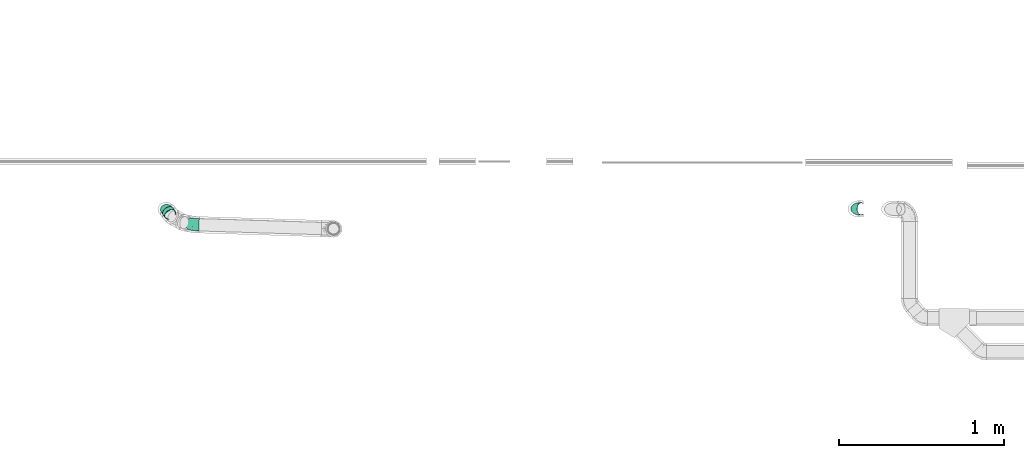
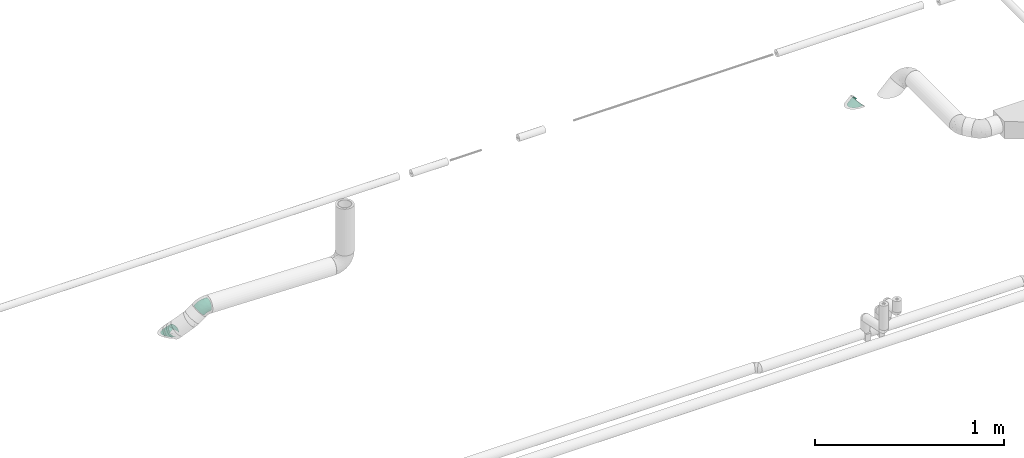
# One storey, part 140 of 156: 2 flow fittings, 2 flow segments.
"""IFC2X3 building model written with IfcOpenShell, lengths in millimetres."""

from ifc_helpers import new_model, entity, si_unit, converted_unit, derived_unit, direction, frame, origin_with_axes, place, context, subcontext, project, spatial, open_shell, faceted_brep, surface_model, source, transform, mapped, type_object, element, save


model = new_model("IFC2X3")

# Units and contexts
model_context = context("Model", 3, precision=0.01, world=frame((0.0, 4.29681676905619e-09, 0.0)), true_north=direction((4.01073788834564e-13, 1.0)))
plan_context = context("Plan", 3, precision=0.01, world=frame((0.0, 4.29681676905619e-09, 0.0)), true_north=direction((4.01073788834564e-13, 1.0)))
body_context = subcontext(model_context, "Body", "Model", "MODEL_VIEW")
ifc_project = project(units=[converted_unit("PLANEANGLEUNIT", "DEGREE", entity("IfcPositiveLengthMeasure", 0.0174532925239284), si_unit("PLANEANGLEUNIT", "RADIAN"), dimensions=[0, 0, 0, 0, 0, 0, 0]), si_unit("AREAUNIT", "SQUARE_METRE"), si_unit("LENGTHUNIT", "METRE", prefix="MILLI"), si_unit("MASSUNIT", "GRAM", prefix="KILO"), si_unit("POWERUNIT", "WATT"), si_unit("PRESSUREUNIT", "PASCAL", prefix="KILO"), si_unit("FORCEUNIT", "NEWTON", prefix="KILO"), si_unit("ELECTRICVOLTAGEUNIT", "VOLT"), si_unit("ELECTRICCURRENTUNIT", "AMPERE"), si_unit("THERMODYNAMICTEMPERATUREUNIT", "DEGREE_CELSIUS"), si_unit("TIMEUNIT", "SECOND"), si_unit("VOLUMEUNIT", "CUBIC_METRE"), derived_unit("LINEARVELOCITYUNIT", [(si_unit("LENGTHUNIT", "METRE"), 1), (si_unit("TIMEUNIT", "SECOND"), -1)]), derived_unit("VOLUMETRICFLOWRATEUNIT", [(si_unit("VOLUMEUNIT", "CUBIC_METRE"), 1), (si_unit("TIMEUNIT", "SECOND"), -1)]), derived_unit("THERMALTRANSMITTANCEUNIT", [(si_unit("POWERUNIT", "WATT"), 1), (si_unit("THERMODYNAMICTEMPERATUREUNIT", "KELVIN"), -1), (si_unit("AREAUNIT", "SQUARE_METRE"), -1)]), derived_unit("SOUNDPRESSUREUNIT", [(si_unit("PRESSUREUNIT", "PASCAL"), 1)])], contexts=[model_context, plan_context])

# Site, building, storey
site_placement = place(None, frame((0.0, -4.29681676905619e-09, 0.0), z_axis=(0.0, 0.0, 1.0), x_axis=(1.0, 0.0, 0.0)))
site = spatial("IfcSite", under=ifc_project, at=site_placement, CompositionType="ELEMENT")
building_placement = place(site_placement, frame((0.0, 4.29681676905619e-09, 0.0), z_axis=(0.0, 0.0, 1.0), x_axis=(1.0, 0.0, 0.0)))
building = spatial("IfcBuilding", under=site, at=building_placement, Name="mc-building", CompositionType="ELEMENT")
storey_placement = place(building_placement, frame((0.0, 0.0, 205200.0), z_axis=(0.0, 0.0, 1.0), x_axis=(1.0, 0.0, 0.0)))
storey = spatial("IfcBuildingStorey", under=building, at=storey_placement, Name="Nivå D + 1,2 m", CompositionType="ELEMENT", Elevation=205200.0)

# Flow fittings
pipe_fitting_type = type_object("IfcPipeFittingType", Name="magi_pipe_elbow_short_001", PredefinedType="BEND")
shared_shape = source(origin_with_axes(), body_context, "Body", "SurfaceModel", [
    surface_model("IfcShellBasedSurfaceModel", [(-31.24245, 18.75, -32.47595), (-31.24245, 9.70571, -36.22222), (-31.24245, 0.0, -37.5), (-31.24245, 26.5165, -26.5165), (-31.24245, 36.22222, -9.70571), (-31.24245, 32.47595, -18.75), (-31.24245, -26.5165, -26.5165), (-31.24245, -32.47595, -18.75), (-31.24245, -18.75, -32.47595), (-31.24245, -9.70571, -36.22222), (-31.24245, -36.22222, -9.70571), (-31.24245, -37.5, 0.0), (-31.24245, -36.22222, 9.70571), (-31.24245, 36.22222, 9.70571), (-31.24245, 37.5, 0.0), (-31.24245, 26.5165, 26.5165), (-31.24245, 32.47595, 18.75), (-31.24245, 9.70571, 36.22222), (-31.24245, 18.75, 32.47595), (-31.24245, 0.0, 37.5), (-31.24245, -32.47595, 18.75), (-31.24245, -26.5165, 26.5165), (-31.24245, -18.75, 32.47595), (-31.24245, -9.70571, 36.22222), (22.00293, 22.18021, -37.5), (15.11247, 29.0156, -36.22222), (8.69158, 35.38516, -32.47595), (40.82801, 3.5056, -26.5165), (3.17784, 40.85483, -26.5165), (-3.71262, 47.69021, 9.70571), (-1.053, 45.05185, -18.75), (-4.61976, 48.59011, 0.0), (28.89339, 15.34483, -36.22222), (35.31427, 8.97527, -32.47595), (45.05885, -0.69142, -18.75), (48.62562, -4.22968, 0.0), (47.71847, -3.32978, -9.70571), (47.71847, -3.32978, 9.70571), (-3.71262, 47.69021, -9.70571), (3.17784, 40.85483, 26.5165), (-1.053, 45.05185, 18.75), (8.69158, 35.38516, 32.47595), (15.11247, 29.0156, 36.22222), (45.05885, -0.69142, 18.75), (22.00293, 22.18021, 37.5), (40.82801, 3.5056, 26.5165), (28.89339, 15.34483, 36.22222), (35.31427, 8.97527, 32.47595), (9.57645, -22.98904, 20.87738), (-8.40224, -21.18584, 28.92972), (-12.27126, -28.68147, 21.95265), (-12.70808, -35.04729, 0.0), (-1.97999, -33.62761, 0.0), (-8.11084, -34.53562, 6.39074), (29.00428, -11.48748, 21.95265), (-14.93472, -13.74236, 34.26877), (3.85038, -9.24314, 33.79139), (1.05134, 22.60066, 35.00552), (6.81414, 17.845, 36.96118), (-11.31805, -3.60702, 37.00172), (-3.60313, 8.6496, 37.36973), (-18.88401, 5.20171, 37.27342), (-10.72486, 25.74588, 30.62382), (-16.70558, 31.44811, 23.66959), (20.27421, 0.92448, 34.26877), (-14.55633, 15.60561, 35.05986), (25.26797, -22.27704, 0.0), (8.33761, -29.2872, 8.40688), (11.64399, -27.95233, 0.0), (-15.54727, 37.32247, 15.41736), (30.23033, -18.56399, 6.39074), (33.83126, -15.66059, 0.0), (-15.07295, 40.23831, 7.88495), (10.53165, 5.49482, 37.00172), (20.95803, -8.95534, 28.92972), (-6.81571, -32.42832, 13.01137), (6.37956, -27.6732, 15.04648), (27.82217, -17.99935, 13.01137), (-16.82234, 40.38338, 0.0), (6.31957, -15.17063, 29.86312), (-11.31805, -3.60702, -37.00172), (-8.11084, -34.53562, -6.39074), (11.67643, -28.0302, -8.11214), (10.53165, 5.49482, -37.00172), (-16.7855, 15.17044, -35.00552), (-17.4678, 7.72997, -36.96118), (-10.56109, 34.0077, -23.66959), (20.95803, -8.95534, -28.92972), (-15.54727, 37.32247, -15.41736), (27.82217, -17.99935, -13.01137), (-17.95138, 39.03925, -7.88495), (-0.82752, 21.32456, -35.05986), (-6.81571, -32.42832, -13.01137), (-10.72486, 25.74588, -30.62382), (-12.27126, -28.68147, -21.95265), (-8.40224, -21.18584, -28.92972), (6.31957, -15.17063, -29.86312), (9.57645, -22.98904, -20.87738), (-14.93472, -13.74236, -34.26877), (20.27421, 0.92448, -34.26877), (3.85038, -9.24314, -33.79139), (30.23033, -18.56399, -6.39074), (9.60643, 17.06986, -37.27342), (7.07488, -27.55291, -14.74971), (29.00428, -11.48748, -21.95265), (-3.60313, 8.6496, -37.36973)], [open_shell([[[0, 1, 2]], [[3, 0, 2]], [[4, 5, 3]], [[6, 3, 2]], [[4, 3, 7]], [[8, 6, 9]], [[6, 2, 9]], [[10, 11, 7]], [[3, 6, 7]], [[7, 11, 12]], [[12, 4, 7]], [[13, 14, 15]], [[16, 13, 15]], [[17, 18, 15]], [[14, 17, 15]], [[19, 17, 14]], [[20, 21, 12]], [[22, 12, 21]], [[23, 19, 22]], [[12, 22, 19]], [[19, 14, 12]], [[4, 12, 14]], [[24, 25, 26]], [[27, 24, 26]], [[26, 28, 29]], [[26, 29, 27]], [[30, 31, 28]], [[32, 27, 33]], [[32, 24, 27]], [[34, 35, 36]], [[37, 35, 34]], [[34, 27, 37]], [[31, 30, 38]], [[27, 29, 39]], [[39, 29, 40]], [[39, 41, 42]], [[39, 37, 27]], [[42, 37, 39]], [[43, 44, 45]], [[44, 43, 37]], [[45, 46, 47]], [[46, 45, 44]], [[37, 42, 44]], [[29, 28, 31]], [[48, 49, 50]], [[51, 52, 53]], [[22, 21, 49]], [[43, 45, 54]], [[55, 49, 56]], [[50, 49, 21]], [[42, 57, 58]], [[23, 22, 55]], [[59, 60, 61]], [[19, 23, 59]], [[15, 62, 63]], [[47, 46, 64]], [[61, 17, 19]], [[18, 65, 62]], [[12, 51, 53]], [[41, 39, 62]], [[66, 67, 68]], [[62, 15, 18]], [[21, 20, 50]], [[16, 63, 69]], [[13, 16, 69]], [[37, 70, 71]], [[72, 14, 13]], [[66, 70, 67]], [[67, 53, 52]], [[18, 17, 65]], [[44, 58, 73]], [[45, 47, 74]], [[40, 29, 69]], [[73, 46, 44]], [[50, 75, 76]], [[45, 74, 54]], [[60, 58, 57]], [[74, 47, 64]], [[20, 75, 50]], [[70, 37, 77]], [[48, 54, 74]], [[61, 65, 17]], [[54, 48, 77]], [[13, 69, 72]], [[20, 12, 75]], [[78, 72, 31]], [[49, 79, 56]], [[29, 72, 69]], [[56, 73, 59]], [[40, 69, 63]], [[56, 64, 73]], [[40, 63, 39]], [[60, 59, 73]], [[42, 41, 57]], [[57, 62, 65]], [[55, 59, 23]], [[16, 15, 63]], [[77, 37, 43]], [[77, 43, 54]], [[79, 48, 74]], [[39, 63, 62]], [[62, 57, 41]], [[60, 57, 65]], [[49, 55, 22]], [[59, 55, 56]], [[73, 64, 46]], [[74, 64, 56]], [[12, 11, 51]], [[67, 75, 53]], [[12, 53, 75]], [[52, 68, 67]], [[76, 75, 67]], [[76, 77, 48]], [[71, 70, 66]], [[71, 35, 37]], [[67, 70, 77]], [[73, 58, 60]], [[44, 42, 58]], [[77, 76, 67]], [[50, 76, 48]], [[59, 61, 19]], [[65, 61, 60]], [[48, 79, 49]], [[74, 56, 79]], [[31, 72, 29]], [[72, 78, 14]], [[9, 2, 80]], [[52, 81, 82]], [[24, 32, 83]], [[84, 85, 1]], [[5, 86, 3]], [[33, 27, 87]], [[88, 86, 5]], [[34, 36, 89]], [[4, 90, 88]], [[26, 25, 91]], [[10, 81, 51]], [[0, 84, 1]], [[81, 10, 92]], [[28, 93, 86]], [[92, 7, 94]], [[94, 6, 95]], [[6, 8, 95]], [[96, 97, 95]], [[10, 7, 92]], [[6, 94, 7]], [[98, 8, 9]], [[99, 83, 32]], [[38, 30, 88]], [[100, 98, 80]], [[14, 78, 90]], [[97, 94, 95]], [[31, 38, 90]], [[100, 80, 83]], [[28, 26, 93]], [[88, 5, 4]], [[30, 86, 88]], [[98, 95, 8]], [[91, 93, 26]], [[85, 80, 2]], [[93, 91, 84]], [[3, 93, 0]], [[36, 71, 101]], [[102, 25, 24]], [[99, 32, 33]], [[103, 89, 82]], [[27, 104, 87]], [[100, 99, 87]], [[27, 34, 104]], [[105, 102, 83]], [[104, 97, 87]], [[105, 83, 80]], [[101, 71, 66]], [[102, 91, 25]], [[105, 85, 84]], [[81, 92, 82]], [[97, 103, 94]], [[87, 96, 100]], [[34, 89, 104]], [[38, 88, 90]], [[97, 104, 89]], [[30, 28, 86]], [[3, 86, 93]], [[93, 84, 0]], [[105, 84, 91]], [[80, 98, 9]], [[95, 98, 100]], [[87, 99, 33]], [[83, 99, 100]], [[51, 81, 52]], [[51, 11, 10]], [[103, 82, 92]], [[101, 82, 89]], [[82, 66, 68]], [[36, 35, 71]], [[82, 101, 66]], [[36, 101, 89]], [[80, 85, 105]], [[2, 1, 85]], [[83, 102, 24]], [[91, 102, 105]], [[97, 96, 87]], [[95, 100, 96]], [[14, 90, 4]], [[90, 78, 31]], [[94, 103, 92]], [[89, 103, 97]], [[52, 82, 68]]])]),
])
flow_fitting_1_placement = place(storey_placement, frame((334067.03438, 461074.84721, 4166.80840000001), z_axis=(0.0302489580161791, 0.986059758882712, 0.163618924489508), x_axis=(0.700370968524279, -0.137698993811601, 0.700370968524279)))
element("IfcFlowFitting", 1, at=flow_fitting_1_placement, inside=storey, type_object=pipe_fitting_type, Name="magi_pipe_elbow_short_001", context=body_context, shape_type="MappedRepresentation", body=[
    mapped(shared_shape, transform((0.0, 0.0, 0.0), scale=1.0)),
])
flow_fitting_2_placement = place(storey_placement, frame((333899.98035, 461168.59036, 3981.45511000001), z_axis=(0.666571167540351, -0.333715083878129, -0.666571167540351), x_axis=(0.707106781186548, 0.0, 0.707106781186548)))
element("IfcFlowFitting", 2, at=flow_fitting_2_placement, inside=storey, type_object=pipe_fitting_type, Name="magi_pipe_elbow_short_001", context=body_context, shape_type="Brep", body=[
    faceted_brep([(14.38302, 23.58308, -36.22222), (20.36523, 15.94017, -37.5), (4.02151, 36.82097, -26.5165), (36.70895, -4.94063, -26.5165), (31.92198, 1.17522, -32.47595), (26.34745, 8.29727, -36.22222), (0.34835, 41.51383, -18.75), (2.30951404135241, 39.0082363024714, -11.5620927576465), (-0.976275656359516, 43.2061761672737, -13.5615897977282), (3.45809629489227, 37.5408020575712, -10.863147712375), (40.38211, -9.63348, -18.75), (16.6767273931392, 20.6526209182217, -2.81923175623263), (24.0040124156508, 11.2912438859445, 1.63962927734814), (38.0347617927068, -6.63449464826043, 10.1777454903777), (40.4976735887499, -9.7811179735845, 11.6764991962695), (43.47874, -13.58974, 0.0), (41.7242349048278, -11.3481818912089, 12.4228955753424), (42.69116, -12.58353, 9.70571), (41.9607108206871, -11.6503056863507, 12.5667975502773), (42.69116, -12.58353, -9.70571), (8.80848, 30.70513, -32.47595), (39.7437182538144, -14.7284485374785, 9.12529463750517), (40.4072181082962, -13.8644530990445, 10.1350055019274), (-3.70753203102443, 39.957404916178, -17.6090339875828), (-5.95127958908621, 36.1308274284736, -21.3438715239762), (-7.5996609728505, 32.8343179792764, -24.2594885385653), (-9.4158836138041, 26.9442487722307, -28.2712971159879), (-8.58224, 24.88876, -30.37348), (-1.8279, 18.39838, -34.98295), (-10.7034269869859, 24.1351833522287, -30.6315732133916), (-11.9454258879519, 18.5464012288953, -33.9275799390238), (-10.3883529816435, 25.058896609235, -29.9703360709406), (-11.6940753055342, 11.4408866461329, -36.1763603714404), (-11.6636721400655, 11.1968238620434, -36.2305087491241), (-10.659041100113, 4.92754423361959, -37.3841654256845), (-2.59987, 7.5397, -37.32276), (-8.26954796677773, -1.49195189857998, -37.1219215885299), (-7.58563843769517, -3.3691965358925, -37.0609835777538), (8.05995, 1.6261, -37.04314), (18.6413, -3.16776, -34.39177), (3.70758, -10.75209, -34.052), (17.19086, -13.73065, -29.12327), (25.74282, -16.68907, -22.21223), (11.1225870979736, -21.6872076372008, -23.6998119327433), (13.3693286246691, -22.6762926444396, -21.666586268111), (19.7002038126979, -23.8118641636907, -15.3527196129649), (23.35604, -23.42742, -13.33999), (22.7576978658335, -24.0525835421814, -12.1945096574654), (26.9223920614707, -22.6666509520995, -7.28591890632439), (21.7430544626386, -24.123226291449, -13.2958638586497), (-5.82091962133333, -6.10813536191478, -36.1585574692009), (-2.66795692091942, -11.0797691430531, -34.5738595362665), (0.608873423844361, -14.5121687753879, -32.3128585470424), (30.7994386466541, -20.1477693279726, -2.28139406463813), (32.7149486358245, -19.4432736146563, 0.0), (35.9825611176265, -18.1817365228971, 3.91291845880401), (4.78265891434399, -18.0092937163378, -29.12327)], [[[0, 1, 2]], [[3, 2, 1]], [[4, 3, 1]], [[5, 4, 1]], [[6, 2, 3]], [[7, 8, 6, 3]], [[9, 7, 3, 10]], [[11, 9, 10]], [[12, 11, 10]], [[13, 12, 10]], [[14, 13, 10, 15]], [[16, 14, 15, 17]], [[18, 16, 17]], [[19, 15, 10]], [[20, 0, 2]], [[21, 22, 17]], [[22, 18, 17]], [[8, 23, 6]], [[23, 24, 6]], [[24, 25, 2, 6]], [[25, 26, 27, 2]], [[27, 20, 2]], [[20, 27, 28]], [[29, 30, 28, 27]], [[31, 29, 27]], [[30, 32, 28]], [[33, 34, 35]], [[34, 36, 35]], [[36, 37, 38, 35]], [[38, 1, 35]], [[0, 35, 1]], [[28, 35, 0]], [[38, 5, 1]], [[5, 38, 39]], [[40, 39, 38]], [[39, 40, 41]], [[4, 39, 41]], [[41, 3, 4]], [[3, 41, 42]], [[43, 44, 42, 41]], [[44, 45, 46, 42]], [[10, 42, 46]], [[46, 19, 10]], [[47, 48, 19, 46]], [[49, 47, 46]], [[50, 51, 40]], [[51, 52, 40]], [[48, 53, 19]], [[53, 54, 15, 19]], [[54, 55, 15]], [[45, 49, 46]], [[56, 43, 41]], [[10, 3, 42]], [[52, 56, 41, 40]], [[4, 5, 39]], [[37, 50, 40, 38]], [[32, 33, 35, 28]], [[28, 0, 20]], [[26, 31, 27]], [[55, 21, 17, 15]], [[9, 11, 12, 13, 14, 16, 18, 22, 21, 55, 54, 53, 48, 47, 49, 45, 44, 43, 56, 52, 51, 50, 37, 36, 34, 33, 32, 30, 29, 31, 26, 25, 24, 23, 8, 7]]], orient=[[False], [False], [False], [False], [False], [False], [False], [False], [False], [False], [False], [False], [False], [False], [False], [False], [False], [False], [False], [False], [False], [False], [False], [False], [False], [False], [False], [False], [False], [False], [False], [False], [False], [False], [False], [False], [False], [False], [False], [False], [False], [False], [False], [False], [False], [False], [False], [False], [False], [False], [False], [False], [False], [False], [False], [False], [False], [False], [False], [False], [False]]),
])

# Flow segments
pipe_segment_type = type_object("IfcPipeSegmentType", Name="MA", PredefinedType="RIGIDSEGMENT")
flow_segment_1_placement = place(storey_placement, frame((338065.34657, 461170.41457, 3961.05807), z_axis=(0.708908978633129, 0.0, -0.705299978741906), x_axis=(0.705299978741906, 0.0, 0.708908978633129)))
element("IfcFlowSegment", 3, at=flow_segment_1_placement, inside=storey, type_object=pipe_segment_type, Name="MA", context=body_context, shape_type="Brep", body=[
    faceted_brep([(48.7990730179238, 34.9606752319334, -6.16451030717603), (54.9322002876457, 35.5, 0.0), (71.5, 35.5, 0.0), (71.5, 34.9606752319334, -6.16451030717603), (42.8522977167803, 33.3590880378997, -12.1417150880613), (71.5, 33.3590880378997, -12.1417150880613), (37.2725641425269, 30.7439018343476, -17.75), (71.5, 30.7439018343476, -17.75), (32.2294096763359, 27.1945777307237, -22.8189601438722), (71.5, 27.1945777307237, -22.8189601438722), (27.8760680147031, 22.8189601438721, -27.1945777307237), (71.5, 22.8189601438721, -27.1945777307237), (24.3448132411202, 17.75, -30.7439018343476), (71.5, 17.75, -30.7439018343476), (21.7429407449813, 12.1417150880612, -33.3590880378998), (71.5, 12.1417150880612, -33.3590880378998), (20.1495071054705, 6.16451030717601, -34.9606752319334), (71.5, 6.16451030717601, -34.9606752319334), (19.6129279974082, -6.52124420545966e-15, -35.5), (71.5, -6.52124420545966e-15, -35.5), (20.1495071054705, -6.16451030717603, -34.9606752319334), (71.5, -6.16451030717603, -34.9606752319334), (21.7429407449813, -12.1417150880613, -33.3590880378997), (71.5, -12.1417150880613, -33.3590880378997), (24.3448132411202, -17.75, -30.7439018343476), (71.5, -17.75, -30.7439018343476), (27.8760680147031, -22.8189601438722, -27.1945777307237), (71.5, -22.8189601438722, -27.1945777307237), (32.2294096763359, -27.1945777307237, -22.8189601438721), (71.5, -27.1945777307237, -22.8189601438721), (37.2725641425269, -30.7439018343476, -17.75), (71.5, -30.7439018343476, -17.75), (42.8522977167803, -33.3590880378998, -12.1417150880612), (71.5, -33.3590880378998, -12.1417150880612), (48.7990730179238, -34.9606752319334, -6.16451030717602), (71.5, -34.9606752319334, -6.16451030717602), (54.9322002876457, -35.5, 4.3474961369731e-15), (71.5, -35.5, 4.3474961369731e-15), (61.0653275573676, -34.9606752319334, 6.16451030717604), (71.5, -34.9606752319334, 6.16451030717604), (67.0121028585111, -33.3590880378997, 12.1417150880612), (71.5, -33.3590880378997, 12.1417150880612), (71.5, -31.2556387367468, 16.6525766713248), (67.0121028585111, 33.3590880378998, 12.1417150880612), (71.5, 31.2556387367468, 16.6525766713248), (71.5, 33.3590880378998, 12.1417150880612), (61.0653275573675, 34.9606752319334, 6.16451030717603), (71.5, 34.9606752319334, 6.16451030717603), (54.9322002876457, 37.5, 0.0), (48.4535447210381, 36.9302907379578, -6.51180666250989), (71.5, 36.9302907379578, -6.51180666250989), (71.5, 37.5, 0.0), (61.4108558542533, 36.9302907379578, 6.51180666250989), (71.5, 36.9302907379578, 6.51180666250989), (67.6926607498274, 35.2384732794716, 12.8257553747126), (71.5, 35.2384732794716, 12.8257553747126), (71.5, 33.4539972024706, 16.6525766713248), (67.6926607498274, -35.2384732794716, 12.8257553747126), (71.5, -33.4539972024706, 16.6525766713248), (71.5, -35.2384732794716, 12.8257553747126), (61.4108558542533, -36.9302907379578, 6.5118066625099), (71.5, -36.9302907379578, 6.5118066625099), (54.9322002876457, -37.5, 4.59242549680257e-15), (71.5, -37.5, 4.59242549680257e-15), (48.4535447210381, -36.9302907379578, -6.51180666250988), (71.5, -36.9302907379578, -6.51180666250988), (42.171739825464, -35.2384732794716, -12.8257553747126), (71.5, -35.2384732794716, -12.8257553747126), (36.2776550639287, -32.4759526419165, -18.75), (71.5, -32.4759526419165, -18.75), (30.9503792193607, -28.7266666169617, -24.1045353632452), (71.5, -28.7266666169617, -24.1045353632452), (26.3517788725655, -24.1045353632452, -28.7266666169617), (71.5, -24.1045353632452, -28.7266666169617), (22.6215801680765, -18.75, -32.4759526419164), (71.5, -18.75, -32.4759526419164), (19.8731233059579, -12.8257553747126, -35.2384732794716), (71.5, -12.8257553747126, -35.2384732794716), (18.189918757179, -6.51180666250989, -36.9302907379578), (71.5, -6.51180666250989, -36.9302907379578), (17.6231098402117, -6.88863824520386e-15, -37.5), (71.5, -6.88863824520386e-15, -37.5), (18.189918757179, 6.51180666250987, -36.9302907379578), (71.5, 6.51180666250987, -36.9302907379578), (19.8731233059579, 12.8257553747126, -35.2384732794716), (71.5, 12.8257553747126, -35.2384732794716), (22.6215801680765, 18.75, -32.4759526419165), (71.5, 18.75, -32.4759526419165), (26.3517788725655, 24.1045353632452, -28.7266666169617), (71.5, 24.1045353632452, -28.7266666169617), (30.9503792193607, 28.7266666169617, -24.1045353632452), (71.5, 28.7266666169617, -24.1045353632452), (36.2776550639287, 32.4759526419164, -18.75), (71.5, 32.4759526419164, -18.75), (42.1717398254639, 35.2384732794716, -12.8257553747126), (71.5, 35.2384732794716, -12.8257553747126)], [[[0, 1, 2, 3]], [[4, 0, 3, 5]], [[6, 4, 5, 7]], [[8, 6, 7, 9]], [[10, 8, 9, 11]], [[12, 10, 11, 13]], [[14, 12, 13, 15]], [[16, 14, 15, 17]], [[18, 16, 17, 19]], [[20, 18, 19, 21]], [[22, 20, 21, 23]], [[24, 22, 23, 25]], [[26, 24, 25, 27]], [[28, 26, 27, 29]], [[30, 28, 29, 31]], [[32, 30, 31, 33]], [[34, 32, 33, 35]], [[36, 34, 35, 37]], [[38, 36, 37, 39]], [[40, 38, 39, 41]], [[42, 40, 41]], [[43, 44, 45]], [[46, 43, 45, 47]], [[1, 46, 47, 2]], [[48, 49, 50, 51]], [[52, 48, 51, 53]], [[54, 52, 53, 55]], [[56, 54, 55]], [[57, 58, 59]], [[60, 57, 59, 61]], [[62, 60, 61, 63]], [[64, 62, 63, 65]], [[66, 64, 65, 67]], [[68, 66, 67, 69]], [[70, 68, 69, 71]], [[72, 70, 71, 73]], [[74, 72, 73, 75]], [[76, 74, 75, 77]], [[78, 76, 77, 79]], [[80, 78, 79, 81]], [[82, 80, 81, 83]], [[84, 82, 83, 85]], [[86, 84, 85, 87]], [[88, 86, 87, 89]], [[90, 88, 89, 91]], [[92, 90, 91, 93]], [[94, 92, 93, 95]], [[49, 94, 95, 50]], [[58, 42, 41, 39, 37, 35, 33, 31, 29, 27, 25, 23, 21, 19, 17, 15, 13, 11, 9, 7, 5, 3, 2, 47, 45, 44, 56, 55, 53, 51, 50, 95, 93, 91, 89, 87, 85, 83, 81, 79, 77, 75, 73, 71, 69, 67, 65, 63, 61, 59]], [[4, 6, 8, 10, 12, 14, 16, 18, 20, 22, 24, 26, 28, 30, 32, 34, 36, 38, 40, 42, 58, 57, 60, 62, 64, 66, 68, 70, 72, 74, 76, 78, 80, 82, 84, 86, 88, 90, 92, 94, 49, 48, 52, 54, 56, 44, 43, 46, 1, 0]]], orient=[[False], [False], [False], [False], [False], [False], [False], [False], [False], [False], [False], [False], [False], [False], [False], [False], [False], [False], [False], [False], [False], [False], [False], [False], [False], [False], [False], [False], [False], [False], [False], [False], [False], [False], [False], [False], [False], [False], [False], [False], [False], [False], [False], [False], [False], [False], [False], [False], [False], [False]]),
])
flow_segment_2_placement = place(storey_placement, frame((333922.71813, 461136.47567, 4020.27093999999), z_axis=(-0.621652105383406, -0.742322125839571, -0.25001304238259), x_axis=(-0.411377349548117, 0.581026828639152, -0.702265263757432)))
element("IfcFlowSegment", 4, at=flow_segment_2_placement, inside=storey, type_object=pipe_segment_type, Name="MA", context=body_context, shape_type="Brep", body=[
    faceted_brep([(0.0, 34.0281945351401, -9.64457564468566), (1.52410280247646, 33.3590880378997, -12.1417150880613), (0.0, 33.3590880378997, -12.1417150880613), (6.0029685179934, 30.7439018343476, -17.75), (0.0, 30.7439018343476, -17.75), (11.1764877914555, 27.1945777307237, -22.8189601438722), (0.0, 27.1945777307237, -22.8189601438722), (16.8874658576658, 22.8189601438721, -27.1945777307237), (0.0, 22.8189601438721, -27.1945777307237), (22.9623775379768, 17.75, -30.7439018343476), (0.0, 17.75, -30.7439018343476), (28.6, 12.6946645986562, -33.1012434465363), (28.6, 12.1417150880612, -33.3590880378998), (0.0, 12.1417150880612, -33.3590880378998), (28.6, 6.16451030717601, -34.9606752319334), (0.0, 6.16451030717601, -34.9606752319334), (28.6, -6.52124420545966e-15, -35.5), (0.0, -6.52124420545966e-15, -35.5), (28.6, -6.16451030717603, -34.9606752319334), (0.0, -6.16451030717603, -34.9606752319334), (28.6, -12.1417150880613, -33.3590880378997), (0.0, -12.1417150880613, -33.3590880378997), (28.6, -17.75, -30.7439018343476), (0.0, -17.75, -30.7439018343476), (28.6, -22.8189601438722, -27.1945777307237), (0.0, -22.8189601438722, -27.1945777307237), (28.6, -27.1945777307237, -22.8189601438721), (0.0, -27.1945777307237, -22.8189601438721), (28.6, -30.7439018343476, -17.75), (0.0, -30.7439018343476, -17.75), (28.6, -33.3590880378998, -12.1417150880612), (0.0, -33.3590880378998, -12.1417150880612), (28.6, -34.9606752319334, -6.16451030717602), (0.0, -34.9606752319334, -6.16451030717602), (28.6, -35.5, 4.3474961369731e-15), (0.0, -35.5, 4.3474961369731e-15), (28.6, -34.9606752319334, 6.16451030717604), (0.0, -34.9606752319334, 6.16451030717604), (28.6, -33.3590880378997, 12.1417150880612), (0.0, -33.3590880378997, 12.1417150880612), (28.6, -30.7439018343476, 17.75), (0.0, -30.7439018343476, 17.75), (28.6, -27.1945777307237, 22.8189601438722), (0.0, -27.1945777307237, 22.8189601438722), (28.6, -22.8189601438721, 27.1945777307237), (0.0, -22.8189601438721, 27.1945777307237), (28.6, -17.75, 30.7439018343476), (0.0, -17.75, 30.7439018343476), (28.5999999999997, -12.2192703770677, 33.3229234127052), (28.5135116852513, -12.1417150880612, 33.3590880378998), (0.0, -12.1417150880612, 33.3590880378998), (22.2699316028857, -6.16451030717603, 34.9606752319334), (0.0, -6.16451030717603, 34.9606752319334), (16.2267416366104, 2.17374806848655e-15, 35.5), (0.0, 2.17374806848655e-15, 35.5), (10.56756105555, 6.16451030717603, 34.9606752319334), (0.0, 6.16451030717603, 34.9606752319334), (5.46434119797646, 12.1417150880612, 33.3590880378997), (0.0, 12.1417150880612, 33.3590880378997), (1.07214081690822, 17.75, 30.7439018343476), (0.0, 17.75, 30.7439018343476), (0.0, 19.2818654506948, 29.671278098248), (0.0, 18.1196606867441, 32.7698846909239), (4.14598995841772, 12.8257553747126, 35.2384732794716), (0.0, 12.8257553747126, 35.2384732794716), (9.53671516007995, 6.51180666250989, 36.9302907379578), (0.0, 6.51180666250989, 36.9302907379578), (15.5147228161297, 2.29621274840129e-15, 37.5), (0.0, 2.29621274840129e-15, 37.5), (21.8983741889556, -6.51180666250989, 36.9302907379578), (0.0, -6.51180666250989, 36.9302907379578), (28.493705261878, -12.8257553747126, 35.2384732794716), (0.0, -12.8257553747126, 35.2384732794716), (28.6, -12.9210713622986, 35.1940267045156), (28.6, -18.75, 32.4759526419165), (0.0, -18.75, 32.4759526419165), (28.6, -24.1045353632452, 28.7266666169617), (0.0, -24.1045353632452, 28.7266666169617), (28.6, -28.7266666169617, 24.1045353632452), (0.0, -28.7266666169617, 24.1045353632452), (28.6, -32.4759526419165, 18.75), (0.0, -32.4759526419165, 18.75), (28.6, -35.2384732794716, 12.8257553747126), (0.0, -35.2384732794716, 12.8257553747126), (28.6, -36.9302907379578, 6.5118066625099), (0.0, -36.9302907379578, 6.5118066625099), (28.6, -37.5, 4.59242549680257e-15), (0.0, -37.5, 4.59242549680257e-15), (28.6, -36.9302907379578, -6.51180666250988), (0.0, -36.9302907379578, -6.51180666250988), (28.6, -35.2384732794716, -12.8257553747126), (0.0, -35.2384732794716, -12.8257553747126), (28.6, -32.4759526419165, -18.75), (0.0, -32.4759526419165, -18.75), (28.6, -28.7266666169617, -24.1045353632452), (0.0, -28.7266666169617, -24.1045353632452), (28.6, -24.1045353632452, -28.7266666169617), (0.0, -24.1045353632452, -28.7266666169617), (28.6, -18.75, -32.4759526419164), (0.0, -18.75, -32.4759526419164), (28.6, -12.8257553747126, -35.2384732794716), (0.0, -12.8257553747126, -35.2384732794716), (28.6, -6.51180666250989, -36.9302907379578), (0.0, -6.51180666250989, -36.9302907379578), (28.6, -6.88863824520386e-15, -37.5), (0.0, -6.88863824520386e-15, -37.5), (28.6, 6.51180666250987, -36.9302907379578), (0.0, 6.51180666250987, -36.9302907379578), (28.6, 12.8257553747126, -35.2384732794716), (0.0, 12.8257553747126, -35.2384732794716), (28.6, 13.3964655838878, -34.9723467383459), (22.6298311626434, 18.75, -32.4759526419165), (0.0, 18.75, -32.4759526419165), (16.2126709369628, 24.1045353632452, -28.7266666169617), (0.0, 24.1045353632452, -28.7266666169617), (10.1799476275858, 28.7266666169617, -24.1045353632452), (0.0, 28.7266666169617, -24.1045353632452), (4.71496247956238, 32.4759526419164, -18.75), (0.0, 32.4759526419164, -18.75), (0.0, 35.228994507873, -12.8460826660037), (0.0, 35.2384732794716, -12.8257553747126), (28.6, -12.1417150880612, 33.3590880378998)], [[[0, 1, 2]], [[1, 3, 4, 2]], [[3, 5, 6, 4]], [[5, 7, 8, 6]], [[7, 9, 10, 8]], [[9, 11, 12, 13, 10]], [[13, 12, 14, 15]], [[15, 14, 16, 17]], [[17, 16, 18, 19]], [[19, 18, 20, 21]], [[21, 20, 22, 23]], [[23, 22, 24, 25]], [[25, 24, 26, 27]], [[27, 26, 28, 29]], [[29, 28, 30, 31]], [[31, 30, 32, 33]], [[33, 32, 34, 35]], [[35, 34, 36, 37]], [[37, 36, 38, 39]], [[39, 38, 40, 41]], [[41, 40, 42, 43]], [[43, 42, 44, 45]], [[45, 44, 46, 47]], [[48, 49, 50, 47, 46]], [[49, 51, 52, 50]], [[51, 53, 54, 52]], [[53, 55, 56, 54]], [[55, 57, 58, 56]], [[57, 59, 60, 58]], [[59, 61, 60]], [[62, 63, 64]], [[63, 65, 66, 64]], [[65, 67, 68, 66]], [[67, 69, 70, 68]], [[69, 71, 72, 70]], [[71, 73, 74, 75, 72]], [[75, 74, 76, 77]], [[77, 76, 78, 79]], [[79, 78, 80, 81]], [[81, 80, 82, 83]], [[83, 82, 84, 85]], [[85, 84, 86, 87]], [[87, 86, 88, 89]], [[89, 88, 90, 91]], [[91, 90, 92, 93]], [[93, 92, 94, 95]], [[95, 94, 96, 97]], [[97, 96, 98, 99]], [[99, 98, 100, 101]], [[101, 100, 102, 103]], [[103, 102, 104, 105]], [[105, 104, 106, 107]], [[107, 106, 108, 109]], [[110, 111, 112, 109, 108]], [[111, 113, 114, 112]], [[113, 115, 116, 114]], [[115, 117, 118, 116]], [[117, 119, 118]], [[119, 0, 2, 4, 6, 8, 10, 13, 15, 17, 19, 21, 23, 25, 27, 29, 31, 33, 35, 37, 39, 41, 43, 45, 47, 50, 52, 54, 56, 58, 60, 61, 62, 64, 66, 68, 70, 72, 75, 77, 79, 81, 83, 85, 87, 89, 91, 93, 95, 97, 99, 101, 103, 105, 107, 109, 112, 114, 116, 118]], [[73, 48, 46, 44, 42, 40, 38, 36, 34, 32, 30, 28, 26, 24, 22, 20, 18, 16, 14, 12, 11, 110, 108, 106, 104, 102, 100, 98, 96, 94, 92, 90, 88, 86, 84, 82, 80, 78, 76, 74]], [[120, 117, 115, 113, 111, 110, 11, 9, 7, 5, 3, 1, 0]], [[73, 71, 69, 67, 65, 63, 62, 61, 59, 57, 55, 53, 51, 121]]], orient=[[False], [False], [False], [False], [False], [False], [False], [False], [False], [False], [False], [False], [False], [False], [False], [False], [False], [False], [False], [False], [False], [False], [False], [False], [False], [False], [False], [False], [False], [False], [False], [False], [False], [False], [False], [False], [False], [False], [False], [False], [False], [False], [False], [False], [False], [False], [False], [False], [False], [False], [False], [False], [False], [False], [False], [False], [False], [False], [False], [False], [False], [False]]),
])

save(model, "model.ifc")
